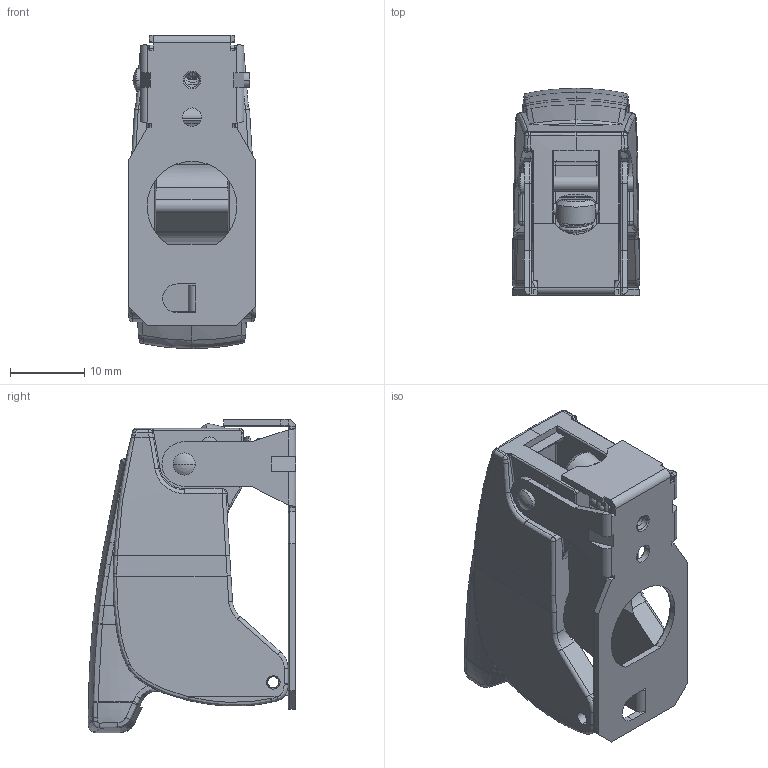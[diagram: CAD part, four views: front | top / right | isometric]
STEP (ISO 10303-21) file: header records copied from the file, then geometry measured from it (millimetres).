
FILE_DESCRIPTION((''),'2;1');
FILE_NAME('MSG24FSXXXX','2015-04-28T',('mdamaggio'),(''),'CREO PARAMETRIC BY PTC INC, 2014440','CREO PARAMETRIC BY PTC INC, 2014440','');
FILE_SCHEMA(('CONFIG_CONTROL_DESIGN'));
Length unit declared in the file: millimetre
Products named in the file (1): MSG24FSXXXX
Bounding box: 17.16 x 27.9 x 42.15 mm (x, y, z)
Surface area: 6766.9 mm2 (no closed solid volume)
Topology: 0 solids, 9 shells, 638 faces, 1643 edges, 1016 vertices
Faces by surface type: plane 267, cylinder 169, bspline 136, torus 26, cone 19, extrusion 11, sphere 10
Entity records: 30390 total; most frequent: CARTESIAN_POINT 16210, ORIENTED_EDGE 3194, DIRECTION 2463, EDGE_CURVE 1634, VERTEX_POINT 1016, VECTOR 871, LINE 860, AXIS2_PLACEMENT_3D 796
